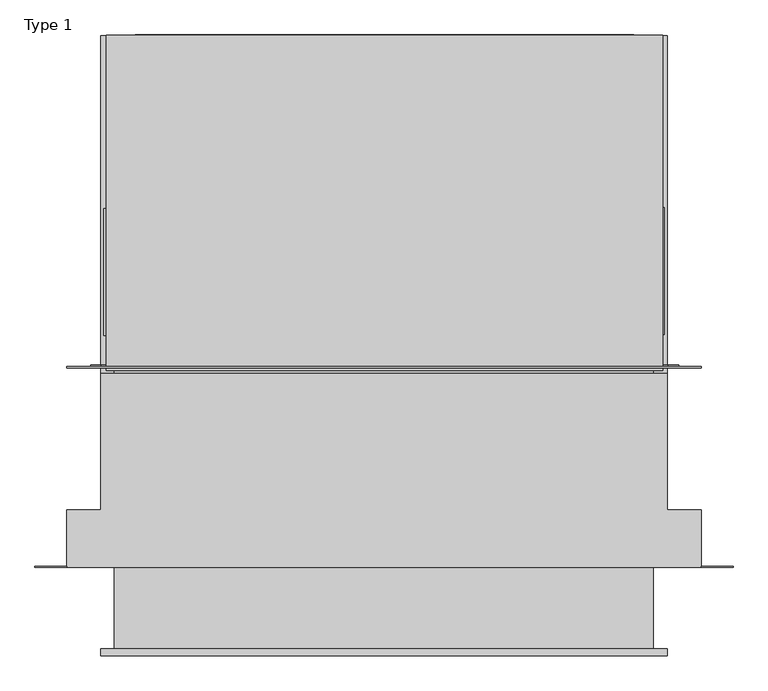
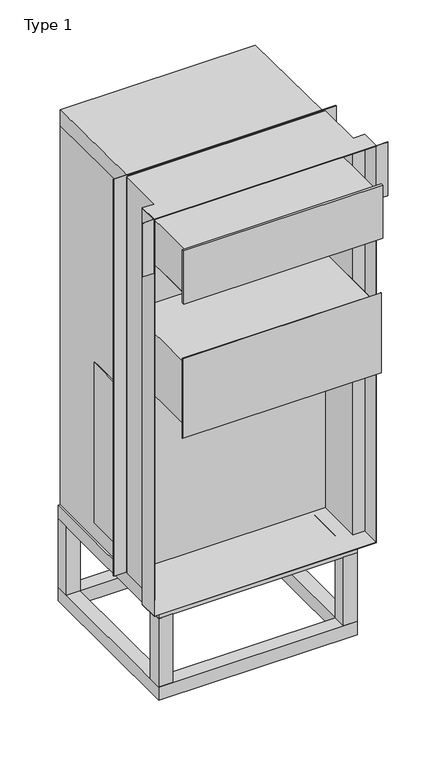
"""IFC4 building model written with IfcOpenShell, lengths in millimetres: proxy geometry, Uniflair_WMF0661_with_wallmountframe_and_Floorstand_BIM_Model : Type 1."""

from ifc_helpers import new_model, si_unit, point, frame, frame_2d, origin, place, context, project, spatial, polyline, circle_curve, trimmed, segment, composite_curve, outline, extrude, source, transform, mapped, element, save


def type_1_93768ecd(model_context):
    return source(origin(), model_context, "Body", "SweptSolid", [
        extrude(outline(polyline([(-458.5, 964.8268395), (-534.5, 964.8268395), (-534.5, 1040.8268395), (-458.5, 1040.8268395), (-458.5, 964.8268395)])), frame((0.0, 0.0, 301.0), z_axis=(0.0, 0.0, 1.0), x_axis=(1.0, 0.0, 0.0)), (0.0, 0.0, 1.0), 389.0),
        extrude(outline(polyline([(534.5, 964.8268395), (458.5, 964.8268395), (458.5, 1040.8268395), (534.5, 1040.8268395), (534.5, 964.8268395)])), frame((0.0, 0.0, 301.0), z_axis=(0.0, 0.0, 1.0), x_axis=(1.0, 0.0, 0.0)), (0.0, 0.0, 1.0), 389.0),
        extrude(outline(polyline([(-458.5, 104.8268395), (-534.5, 104.8268395), (-534.5, 180.8268395), (-458.5, 180.8268395), (-458.5, 104.8268395)])), frame((0.0, 0.0, 301.0), z_axis=(0.0, 0.0, 1.0), x_axis=(1.0, 0.0, 0.0)), (0.0, 0.0, 1.0), 389.0),
        extrude(outline(polyline([(534.5, 104.8268395), (458.5, 104.8268395), (458.5, 180.8268395), (534.5, 180.8268395), (534.5, 104.8268395)])), frame((0.0, 0.0, 301.0), z_axis=(0.0, 0.0, 1.0), x_axis=(1.0, 0.0, 0.0)), (0.0, 0.0, 1.0), 389.0),
        extrude(outline(polyline([(534.5, 1040.8268395), (534.5, 104.8268395), (-534.5, 104.8268395), (-534.5, 1040.8268395), (534.5, 1040.8268395)]), holes=[polyline([(458.5, 964.8268395), (-458.5, 964.8268395), (-458.5, 180.8268395), (458.5, 180.8268395), (458.5, 964.8268395)])]), frame((0.0, 0.0, 225.0), z_axis=(0.0, 0.0, 1.0), x_axis=(1.0, 0.0, 0.0)), (0.0, 0.0, 1.0), 76.0),
        extrude(outline(polyline([(534.5, 1040.8268395), (534.5, 104.8268395), (-534.5, 104.8268395), (-534.5, 1040.8268395), (534.5, 1040.8268395)]), holes=[polyline([(458.5, 964.8268395), (-458.5, 964.8268395), (-458.5, 180.8268395), (458.5, 180.8268395), (458.5, 964.8268395)])]), frame((0.0, 0.0, 690.0), z_axis=(0.0, 0.0, 1.0), x_axis=(1.0, 0.0, 0.0)), (0.0, 0.0, 1.0), 76.0),
        extrude(outline(polyline([(523.8018802, 476.4241238), (523.8018802, 716.4241238), (529.0, 716.4241238), (529.0, 476.4241238), (523.8018802, 476.4241238)])), frame((0.0, 0.0, 862.8466177), z_axis=(0.0, 0.0, 1.0), x_axis=(1.0, 0.0, 0.0)), (0.0, 0.0, 1.0), 911.3275465),
        extrude(outline(composite_curve([segment(trimmed(circle_curve(frame_2d((2763.0043914, 449.5834139)), 20.0), [point((2763.0043914, 469.5834139))], [point((2763.0043914, 429.5834139))], False, "CARTESIAN"), True, "CONTINUOUS"), segment(trimmed(circle_curve(frame_2d((2763.0043914, 449.5834139)), 20.0), [point((2763.0043914, 429.5834139))], [point((2763.0043914, 469.5834139))], False, "CARTESIAN"), True, "CONTINUOUS")], self_intersect=False)), frame((0.0, 412.8268395, 0.0), z_axis=(0.0, 1.0, 0.0), x_axis=(0.0, 0.0, 1.0)), (0.0, 0.0, 1.0), 3.0),
        extrude(outline(composite_curve([segment(trimmed(circle_curve(frame_2d((2763.0043914, -449.5834139)), 20.0), [point((2763.0043914, -469.5834139))], [point((2763.0043914, -429.5834139))], False, "CARTESIAN"), True, "CONTINUOUS"), segment(trimmed(circle_curve(frame_2d((2763.0043914, -449.5834139)), 20.0), [point((2763.0043914, -429.5834139))], [point((2763.0043914, -469.5834139))], False, "CARTESIAN"), True, "CONTINUOUS")], self_intersect=False)), frame((0.0, 412.8268395, 0.0), z_axis=(0.0, 1.0, 0.0), x_axis=(0.0, 0.0, 1.0)), (0.0, 0.0, 1.0), 3.0),
        extrude(outline(polyline([(2977.443345, -553.6016093), (827.1766168, -553.6016093), (795.3178142, -521.7428067), (795.3178142, 524.5388953), (827.1769097, 556.398405), (2977.4437593, 556.398405), (2997.5199213, 536.3223685), (2997.5199213, -533.5255729), (2977.443345, -553.6016093)])), frame((0.0, 415.8268395, 0.0), z_axis=(0.0, 1.0, 0.0), x_axis=(0.0, 0.0, 1.0)), (0.0, 0.0, 1.0), 3.0),
        extrude(outline(polyline([(-523.8018802, 714.4648165), (-523.8018802, 474.4648165), (-529.0, 474.4648165), (-529.0, 714.4648165), (-523.8018802, 714.4648165)])), frame((0.0, 0.0, 862.8466177), z_axis=(0.0, 0.0, 1.0), x_axis=(1.0, 0.0, 0.0)), (0.0, 0.0, 1.0), 911.3275465),
        extrude(outline(polyline([(-468.8041663, 1041.8268395), (471.1958337, 1041.8268395), (471.1958337, 1040.8268395), (-468.8041663, 1040.8268395), (-468.8041663, 1041.8268395)])), frame((0.0, 0.0, 1820.2781805), z_axis=(0.0, 0.0, 1.0), x_axis=(1.0, 0.0, 0.0)), (0.0, 0.0, 1.0), 380.0),
        extrude(outline(polyline([(-493.8018802, 1041.8268395), (201.1981198, 1041.8268395), (201.1981198, 1040.8268395), (-493.8018802, 1040.8268395), (-493.8018802, 1041.8268395)])), frame((0.0, 0.0, 858.3506603), z_axis=(0.0, 0.0, 1.0), x_axis=(1.0, 0.0, 0.0)), (0.0, 0.0, 1.0), 631.3275465),
        extrude(outline(polyline([(1040.8268395, 2920.743452), (408.2490652, 2928.5674831), (408.2490652, 3019.0), (1040.8268395, 3011.1453952), (1040.8268395, 2920.743452)])), frame((-523.8018802, 0.0, 0.0), z_axis=(1.0, 0.0, 0.0), x_axis=(0.0, 1.0, 0.0)), (0.0, 0.0, 1.0), 1049.9976998),
        extrude(outline(polyline([(2928.3296054, -523.8018802), (767.7926473, -523.8018802), (767.7926473, -519.8031702), (769.0139798, -519.8031702), (769.0139798, 522.2010067), (768.1751637, 522.200797), (768.1751637, 526.1968269), (2928.3296054, 526.1958388), (2928.3296054, -523.8018802)])), frame((0.0, 415.8268395, 0.0), z_axis=(0.0, 1.0, 0.0), x_axis=(0.0, 0.0, 1.0)), (0.0, 0.0, 1.0), 625.0),
        extrude(outline(polyline([(2253.0, 508.09413), (2253.0, -508.5), (1901.0, -508.5), (1901.0, 508.09413), (2253.0, 508.09413)]), holes=[polyline([(1902.0, -507.5), (2252.0, -507.5), (2252.0, 507.09413), (1902.0, 507.09413), (1902.0, -507.5)])]), frame((0.0, -117.3124501, 0.0), z_axis=(0.0, 1.0, 0.0), x_axis=(0.0, 0.0, 1.0)), (0.0, 0.0, 1.0), 530.1392896),
        extrude(outline(polyline([(-598.0, 37.1258631), (-658.5, 37.1258631), (-658.5, 38.1320658), (-598.0, 38.1320658), (-598.0, 37.1258631)])), frame((0.0, 0.0, 2717.0), z_axis=(0.0, 0.0, 1.0), x_axis=(1.0, 0.0, 0.0)), (0.0, 0.0, 1.0), 305.0),
        extrude(outline(polyline([(658.5, 37.1258631), (598.0, 37.1258631), (598.0, 38.2696029), (658.5, 38.2696029), (658.5, 37.1258631)])), frame((0.0, 0.0, 2717.0), z_axis=(0.0, 0.0, 1.0), x_axis=(1.0, 0.0, 0.0)), (0.0, 0.0, 1.0), 305.0),
        extrude(outline(polyline([(534.09413, 402.2083725), (534.09413, 145.2083725), (598.0, 145.2083725), (598.0, 37.1258631), (-598.0, 37.1258631), (-598.0, 145.2083725), (-534.5, 145.2083725), (-534.5, 402.2083725), (534.09413, 402.2083725)])), frame((0.0, 0.0, 3020.5646059), z_axis=(0.0, 0.0, 1.0), x_axis=(1.0, 0.0, 0.0)), (0.0, 0.0, 1.0), 1.4353941),
        extrude(outline(polyline([(534.09413, 402.2083725), (534.09413, 145.2083725), (598.0, 145.2083725), (598.0, 37.1258631), (-598.0, 37.1258631), (-598.0, 145.2083725), (-534.5, 145.2083725), (-534.5, 402.2083725), (534.09413, 402.2083725)])), frame((0.0, 0.0, 766.0), z_axis=(0.0, 0.0, 1.0), x_axis=(1.0, 0.0, 0.0)), (0.0, 0.0, 1.0), 1.4302096),
        extrude(outline(polyline([(534.5, -119.3124501), (-534.5, -119.3124501), (-534.5, -117.3124501), (534.5, -117.3124501), (534.5, -119.3124501)])), frame((0.0, 0.0, 1849.7834305), z_axis=(0.0, 0.0, 1.0), x_axis=(1.0, 0.0, 0.0)), (0.0, 0.0, 1.0), 454.0),
        extrude(outline(polyline([(2897.0, 508.09413), (2897.0, -508.5), (2645.0, -508.5), (2645.0, 508.09413), (2897.0, 508.09413)]), holes=[polyline([(2896.0, 507.09413), (2646.0, 507.09413), (2646.0, -507.5), (2896.0, -507.5), (2896.0, 507.09413)])]), frame((0.0, -117.3124501, 0.0), z_axis=(0.0, 1.0, 0.0), x_axis=(0.0, 0.0, 1.0)), (0.0, 0.0, 1.0), 530.1392896),
        extrude(outline(polyline([(534.5, -129.9309171), (-534.5, -129.9309171), (-534.5, -117.3124501), (534.5, -117.3124501), (534.5, -129.9309171)])), frame((0.0, 0.0, 2620.0), z_axis=(0.0, 0.0, 1.0), x_axis=(1.0, 0.0, 0.0)), (0.0, 0.0, 1.0), 302.0),
        extrude(outline(polyline([(-534.5, 145.2083725), (-534.5, 402.2083725), (534.09413, 402.2083725), (534.09413, 145.2083725), (598.0, 145.2083725), (598.0, 37.1258631), (597.0, 37.1258631), (597.0, 144.2083725), (533.09413, 144.2083725), (533.09413, 401.2083725), (-533.5, 401.2083725), (-533.5, 144.2083725), (-597.0, 144.2083725), (-597.0, 37.1258631), (-598.0, 37.1258631), (-598.0, 145.2083725), (-534.5, 145.2083725)])), frame((0.0, 0.0, 767.4302096), z_axis=(0.0, 0.0, 1.0), x_axis=(1.0, 0.0, 0.0)), (0.0, 0.0, 1.0), 2253.1343963),
        extrude(outline(polyline([(598.0, 412.8268395), (-598.0, 412.8268395), (-598.0, 415.8268395), (598.0, 415.8268395), (598.0, 412.8268395)])), frame((0.0, 0.0, 766.0), z_axis=(0.0, 0.0, 1.0), x_axis=(1.0, 0.0, 0.0)), (0.0, 0.0, 1.0), 2256.0),
    ])


if __name__ == "__main__":
    model = new_model("IFC4")
    model_context = context("Model", 3, world=origin())
    ifc_project = project(units=[si_unit("LENGTHUNIT", "METRE", prefix="MILLI")], contexts=[model_context])
    site = spatial("IfcSite", under=ifc_project)
    building = spatial("IfcBuilding", under=site)
    placement = place(None, origin())
    type_1_shape = type_1_93768ecd(model_context)
    element("IfcBuildingElementProxy", 1, Name="Uniflair_WMF0661_with_wallmountframe_and_Floorstand_BIM_Model : Type 1", ObjectType="Uniflair_WMF0661_with_wallmountframe_and_Floorstand_BIM_Model : Type 1", at=placement, inside=building, context=model_context, shape_type="MappedRepresentation", body=[
        mapped(type_1_shape, transform((0.0, 0.0, 0.0), x_axis=(1.0, 0.0, 0.0), y_axis=(0.0, 1.0, 0.0), z_axis=(0.0, 0.0, 1.0))),
    ])
    save(model, "model.ifc")
